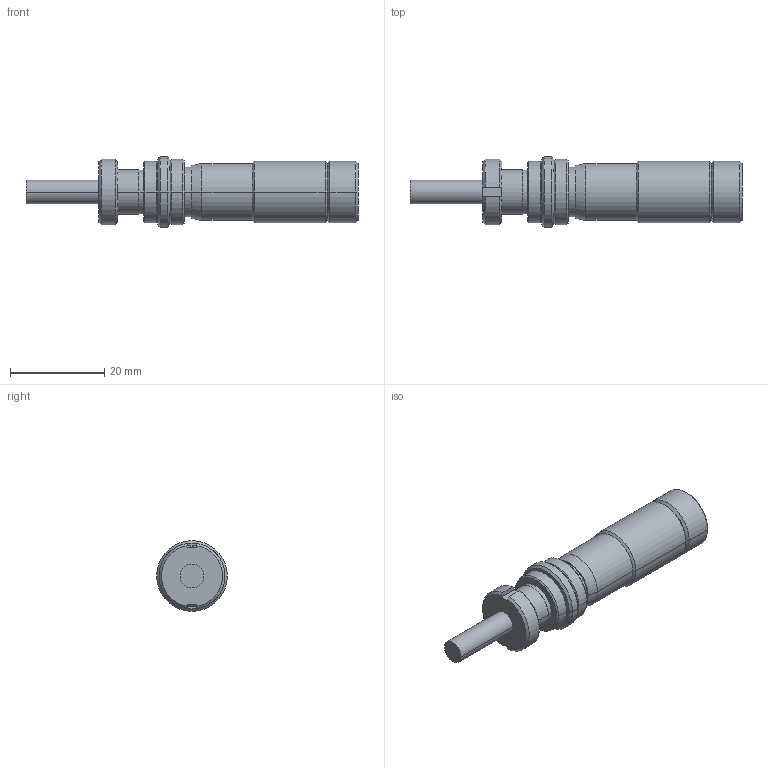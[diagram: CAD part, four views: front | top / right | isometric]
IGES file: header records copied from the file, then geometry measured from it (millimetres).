
Start section: Elysium IGES Interface
Global section: file name: 69HR:\01_商品設計部\01_MK外ﾃｰﾏ(U)\15_MH_3D\IGESﾌｧｲﾙ\148-504_MHA2-13L.igs; native system: Creo Elements/Direct Modeling 18.1B  29-Sep-2012; preprocessor: Creo Element/Direct IGES_3D V2.2; author: Unknown; organization: Unknown; date: 20140623.171504; units: millimetre
Bounding box: 70.6 x 15 x 15 mm (x, y, z)
Volume: 7168.9 mm3; surface area: 2984.5 mm2
Topology: 1 solids, 1 shells, 64 faces, 136 edges, 82 vertices
Faces by surface type: bspline 64
